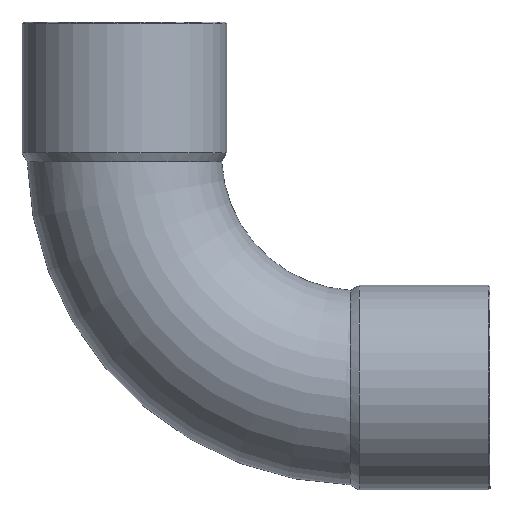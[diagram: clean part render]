
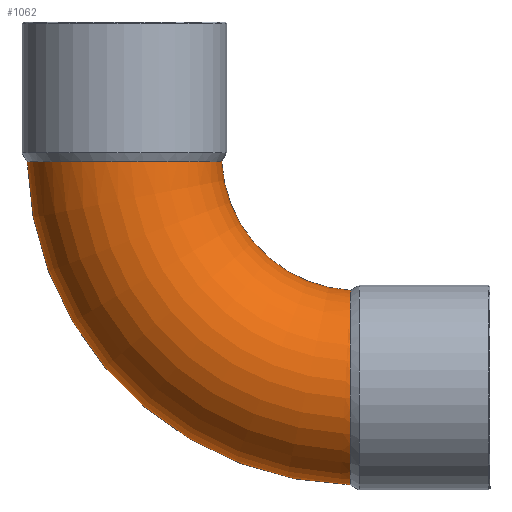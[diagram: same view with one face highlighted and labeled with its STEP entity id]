
A CAD part, front view. The second image highlights one B-rep face of the part: STEP entity #1062.
In plain terms, the highlighted toroidal (fillet/blend) face has major radius 50.4 mm and minor radius 21 mm.
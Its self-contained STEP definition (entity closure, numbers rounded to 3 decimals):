
#49=CARTESIAN_POINT('',(-49.346,0.,-1.632));
#50=VERTEX_POINT('',#49);
#51=CARTESIAN_POINT('',(20.403,0.,-71.381));
#52=VERTEX_POINT('',#51);
#53=CARTESIAN_POINT('',(22.035,0.,0.0));
#54=DIRECTION('',(0.0,-1.0,0.0));
#55=DIRECTION('',(0.0,0.0,-1.0));
#56=AXIS2_PLACEMENT_3D('',#53,#54,#55);
#57=CIRCLE('',#56,71.4);
#58=EDGE_CURVE('',#50,#52,#57,.T.);
#60=CARTESIAN_POINT('',(-7.325,0.,-1.531));
#61=VERTEX_POINT('',#60);
#85=CARTESIAN_POINT('',(20.504,0.,-29.36));
#86=VERTEX_POINT('',#85);
#87=CARTESIAN_POINT('',(22.035,0.,0.0));
#88=DIRECTION('',(0.0,1.0,0.0));
#89=DIRECTION('',(0.0,0.0,-1.0));
#90=AXIS2_PLACEMENT_3D('',#87,#88,#89);
#91=CIRCLE('',#90,29.4);
#92=EDGE_CURVE('',#86,#61,#91,.T.);
#226=CARTESIAN_POINT('',(-7.325,0.,-1.531));
#227=CARTESIAN_POINT('',(-7.325,-0.182,-1.531));
#228=CARTESIAN_POINT('',(-7.327,-0.365,-1.531));
#229=CARTESIAN_POINT('',(-7.403,-3.28,-1.531));
#230=CARTESIAN_POINT('',(-8.008,-5.972,-1.535));
#231=CARTESIAN_POINT('',(-10.217,-10.976,-1.545));
#232=CARTESIAN_POINT('',(-11.8,-13.239,-1.552));
#233=CARTESIAN_POINT('',(-15.747,-17.032,-1.567));
#234=CARTESIAN_POINT('',(-18.072,-18.525,-1.574));
#235=CARTESIAN_POINT('',(-23.164,-20.536,-1.588));
#236=CARTESIAN_POINT('',(-25.881,-21.034,-1.595));
#237=CARTESIAN_POINT('',(-31.354,-20.962,-1.606));
#238=CARTESIAN_POINT('',(-34.056,-20.392,-1.611));
#239=CARTESIAN_POINT('',(-39.09,-18.248,-1.619));
#240=CARTESIAN_POINT('',(-41.373,-16.696,-1.622));
#241=CARTESIAN_POINT('',(-45.214,-12.803,-1.627));
#242=CARTESIAN_POINT('',(-46.736,-10.5,-1.629));
#243=CARTESIAN_POINT('',(-48.812,-5.442,-1.632));
#244=CARTESIAN_POINT('',(-49.346,-2.734,-1.632));
#245=CARTESIAN_POINT('',(-49.346,0.,-1.632));
#246=B_SPLINE_CURVE_WITH_KNOTS('',3,(#226,#227,#228,#229,#230,#231,#232,#233,#234,#235,#236,#237,#238,#239,#240,#241,#242,#243,#244,#245),.UNSPECIFIED.,.F.,.U.,(4,2,2,2,2,2,2,2,2,4),(-6.62,-6.565,-5.745,-4.924,-4.103,-3.282,-2.461,-1.64,-0.82,0.0),.UNSPECIFIED.);
#247=EDGE_CURVE('',#61,#50,#246,.T.);
#1029=CARTESIAN_POINT('',(22.035,0.,0.0));
#1030=DIRECTION('',(0.0,-1.0,0.0));
#1031=DIRECTION('',(0.0,0.0,-1.0));
#1032=AXIS2_PLACEMENT_3D('',#1029,#1030,#1031);
#1033=TOROIDAL_SURFACE('',#1032,50.4,21.0);
#1034=ORIENTED_EDGE('',*,*,#58,.T.);
#1035=CARTESIAN_POINT('',(20.403,0.,-71.381));
#1036=CARTESIAN_POINT('',(20.403,-1.548,-71.381));
#1037=CARTESIAN_POINT('',(20.403,-3.091,-71.21));
#1038=CARTESIAN_POINT('',(20.404,-6.112,-70.532));
#1039=CARTESIAN_POINT('',(20.404,-7.58,-70.026));
#1040=CARTESIAN_POINT('',(20.406,-11.451,-68.195));
#1041=CARTESIAN_POINT('',(20.408,-13.671,-66.553));
#1042=CARTESIAN_POINT('',(20.414,-17.358,-62.511));
#1043=CARTESIAN_POINT('',(20.417,-18.788,-60.149));
#1044=CARTESIAN_POINT('',(20.426,-20.665,-55.008));
#1045=CARTESIAN_POINT('',(20.431,-21.092,-52.279));
#1046=CARTESIAN_POINT('',(20.443,-20.875,-46.809));
#1047=CARTESIAN_POINT('',(20.449,-20.234,-44.12));
#1048=CARTESIAN_POINT('',(20.464,-17.957,-39.143));
#1049=CARTESIAN_POINT('',(20.472,-16.344,-36.9));
#1050=CARTESIAN_POINT('',(20.486,-12.351,-33.162));
#1051=CARTESIAN_POINT('',(20.493,-10.01,-31.701));
#1052=CARTESIAN_POINT('',(20.502,-5.073,-29.824));
#1053=CARTESIAN_POINT('',(20.504,-2.546,-29.36));
#1054=CARTESIAN_POINT('',(20.504,0.,-29.36));
#1055=B_SPLINE_CURVE_WITH_KNOTS('',3,(#1035,#1036,#1037,#1038,#1039,#1040,#1041,#1042,#1043,#1044,#1045,#1046,#1047,#1048,#1049,#1050,#1051,#1052,#1053,#1054),.UNSPECIFIED.,.F.,.U.,(4,2,2,2,2,2,2,2,2,4),(-13.237,-12.773,-12.309,-11.488,-10.667,-9.846,-9.025,-8.204,-7.384,-6.62),.UNSPECIFIED.);
#1056=EDGE_CURVE('',#52,#86,#1055,.T.);
#1057=ORIENTED_EDGE('',*,*,#1056,.T.);
#1058=ORIENTED_EDGE('',*,*,#92,.T.);
#1059=ORIENTED_EDGE('',*,*,#247,.T.);
#1060=EDGE_LOOP('',(#1034,#1057,#1058,#1059));
#1061=FACE_OUTER_BOUND('',#1060,.T.);
#1062=ADVANCED_FACE('',(#1061),#1033,.T.);
